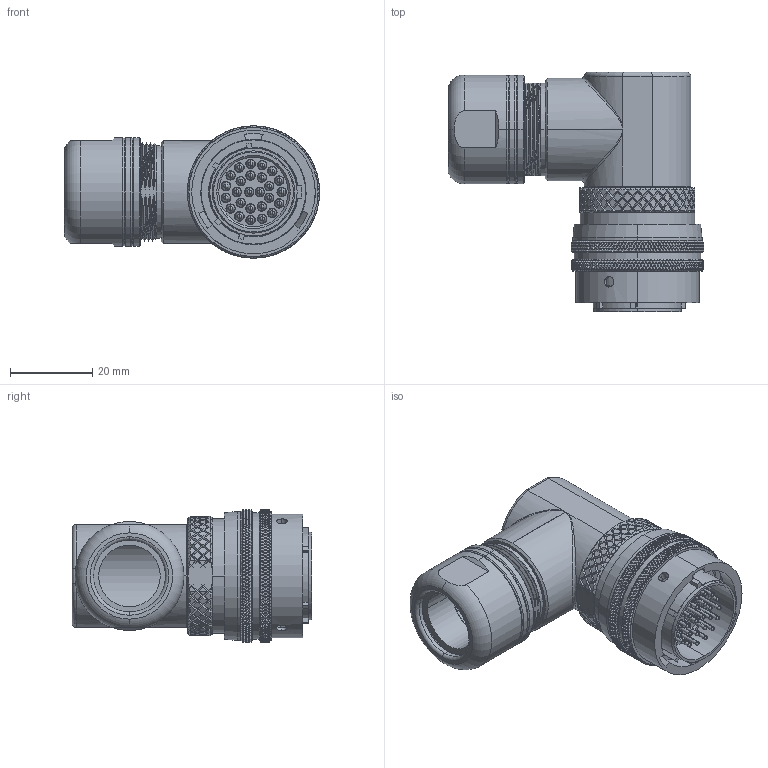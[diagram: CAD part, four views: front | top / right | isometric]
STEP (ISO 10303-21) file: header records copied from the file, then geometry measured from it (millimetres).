
FILE_DESCRIPTION (( 'STEP AP214' ), '1' );
FILE_NAME ('1.Y11866.STEP', '2021-03-30T06:49:38', ( '微软用户' ), ( '微软中国' ), 'SwSTEP 2.0', 'SolidWorks 2018', '' );
FILE_SCHEMA (( 'AUTOMOTIVE_DESIGN' ));
Length unit declared in the file: millimetre
Products named in the file (1): 1.Y11866
Bounding box: 62.08 x 58.35 x 32.16 mm (x, y, z)
Volume: 24088.2 mm3; surface area: 32346.5 mm2
Topology: 5 solids, 5 shells, 7142 faces, 16641 edges, 9486 vertices
Faces by surface type: bspline 4574, cylinder 1737, plane 417, cone 298, torus 64, sphere 52
Entity records: 301343 total; most frequent: CARTESIAN_POINT 175628, ORIENTED_EDGE 32970, EDGE_CURVE 16485, DIRECTION 13013, B_SPLINE_CURVE_WITH_KNOTS 10606, VERTEX_POINT 9434, EDGE_LOOP 7257, FACE_OUTER_BOUND 7142
